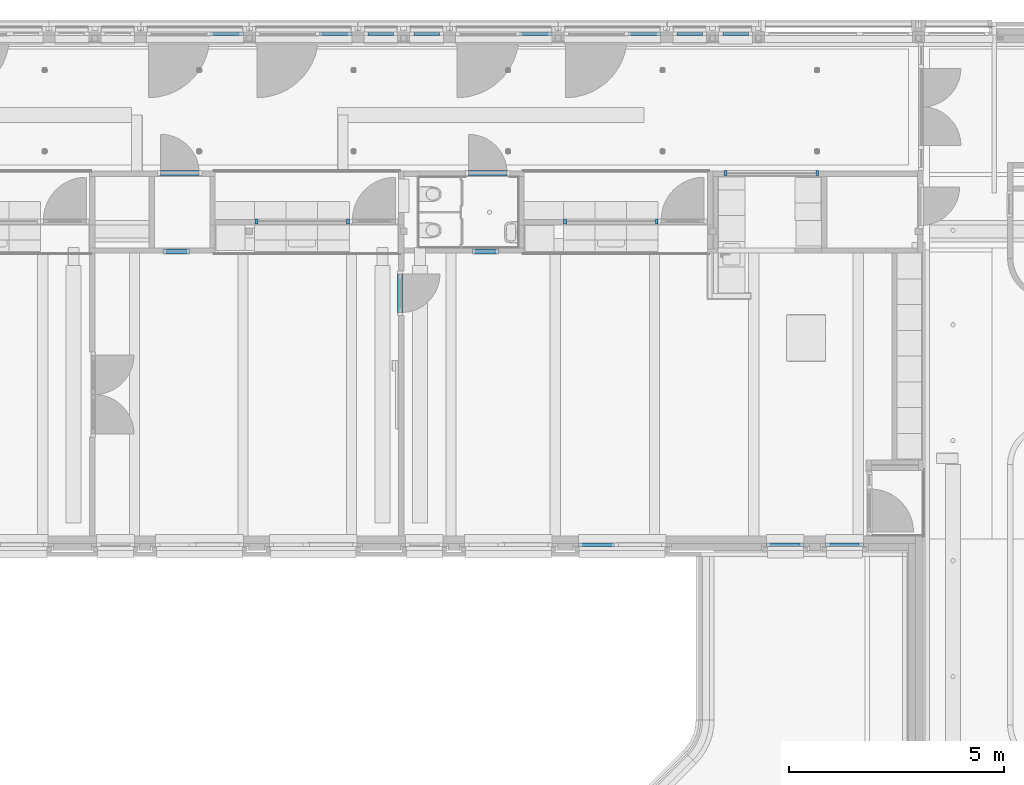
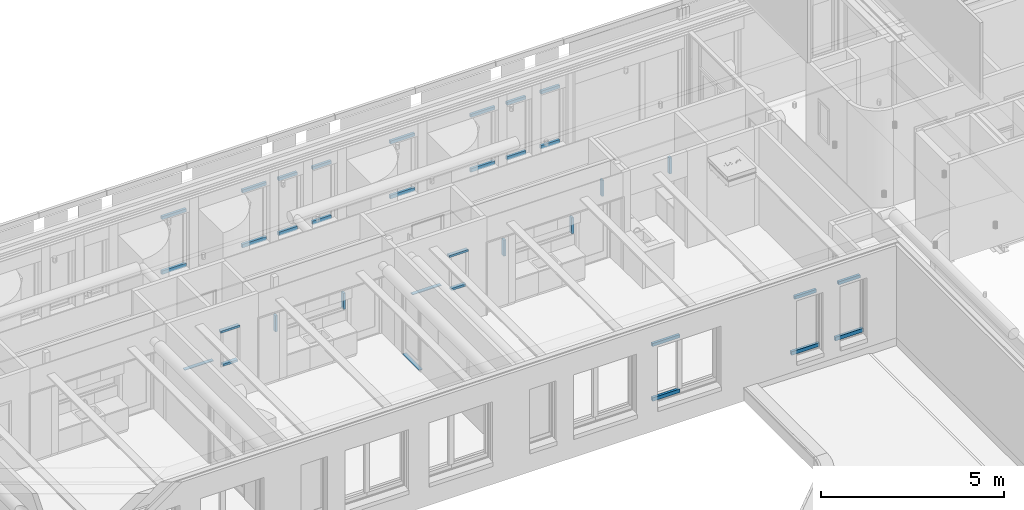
# One storey, part 29 of 128: 35 members, 19 elements without a shape of their own.
"""IFC2X3 building model written with IfcOpenShell, lengths in millimetres."""

from ifc_helpers import new_model, entity, si_unit, converted_unit, derived_unit, direction, frame, frame_2d, origin, origin_2d_with_axis, place, context, subcontext, project, spatial, rectangle, extrude, source, transform, mapped, material, type_object, type_shapes, element, aggregate, save


model = new_model("IFC2X3")

# Units and contexts
model_context = context("Model", 3, precision=0.01, world=origin(), true_north=direction((6.123031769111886e-17, 1.0)))
body_context = subcontext(model_context, "Body", "Model", "MODEL_VIEW")
ifc_project = project(units=[si_unit("LENGTHUNIT", "METRE", prefix="MILLI"), si_unit("AREAUNIT", "SQUARE_METRE"), si_unit("VOLUMEUNIT", "CUBIC_METRE"), converted_unit("PLANEANGLEUNIT", "DEGREE", entity("IfcRatioMeasure", 0.017453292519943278), si_unit("PLANEANGLEUNIT", "RADIAN"), dimensions=[0, 0, 0, 0, 0, 0, 0]), si_unit("MASSUNIT", "GRAM", prefix="KILO"), derived_unit("MASSDENSITYUNIT", [(si_unit("MASSUNIT", "GRAM", prefix="KILO"), 1), (si_unit("LENGTHUNIT", "METRE"), -3)]), derived_unit("IONCONCENTRATIONUNIT", [(si_unit("MASSUNIT", "GRAM", prefix="KILO"), 1), (si_unit("LENGTHUNIT", "METRE"), -3)]), derived_unit("MOMENTOFINERTIAUNIT", [(si_unit("LENGTHUNIT", "METRE"), 4)]), si_unit("TIMEUNIT", "SECOND"), si_unit("FREQUENCYUNIT", "HERTZ"), si_unit("THERMODYNAMICTEMPERATUREUNIT", "DEGREE_CELSIUS"), derived_unit("THERMALTRANSMITTANCEUNIT", [(si_unit("MASSUNIT", "GRAM", prefix="KILO"), 1), (si_unit("THERMODYNAMICTEMPERATUREUNIT", "KELVIN"), -1), (si_unit("TIMEUNIT", "SECOND"), -3)]), derived_unit("THERMALCONDUCTANCEUNIT", [(si_unit("MASSUNIT", "GRAM", prefix="KILO"), 1), (si_unit("THERMODYNAMICTEMPERATUREUNIT", "KELVIN"), -1), (si_unit("TIMEUNIT", "SECOND"), -3), (si_unit("LENGTHUNIT", "METRE"), 1)]), derived_unit("VOLUMETRICFLOWRATEUNIT", [(si_unit("LENGTHUNIT", "METRE"), 3), (si_unit("TIMEUNIT", "SECOND"), -1)]), derived_unit("MASSFLOWRATEUNIT", [(si_unit("MASSUNIT", "GRAM", prefix="KILO"), 1), (si_unit("TIMEUNIT", "SECOND"), -1)]), derived_unit("ROTATIONALFREQUENCYUNIT", [(si_unit("TIMEUNIT", "SECOND"), -1)]), si_unit("ELECTRICCURRENTUNIT", "AMPERE"), si_unit("ELECTRICVOLTAGEUNIT", "VOLT"), si_unit("POWERUNIT", "WATT"), si_unit("FORCEUNIT", "NEWTON", prefix="KILO"), si_unit("ILLUMINANCEUNIT", "LUX"), si_unit("LUMINOUSFLUXUNIT", "LUMEN"), si_unit("LUMINOUSINTENSITYUNIT", "CANDELA"), derived_unit("USERDEFINED", [(si_unit("MASSUNIT", "GRAM", prefix="KILO"), -1), (si_unit("LENGTHUNIT", "METRE"), -2), (si_unit("TIMEUNIT", "SECOND"), 3), (si_unit("LUMINOUSFLUXUNIT", "LUMEN"), 1)]), derived_unit("USERDEFINED", [(si_unit("MASSUNIT", "GRAM", prefix="KILO"), 1), (si_unit("TIMEUNIT", "SECOND"), -3), (si_unit("LENGTHUNIT", "METRE"), 3), (si_unit("ELECTRICCURRENTUNIT", "AMPERE"), -2)]), derived_unit("SOUNDPOWERUNIT", [(si_unit("MASSUNIT", "GRAM", prefix="KILO"), 1), (si_unit("TIMEUNIT", "SECOND"), -3), (si_unit("LENGTHUNIT", "METRE"), 2)]), derived_unit("SOUNDPRESSUREUNIT", [(si_unit("MASSUNIT", "GRAM", prefix="KILO"), 1), (si_unit("LENGTHUNIT", "METRE"), -1), (si_unit("TIMEUNIT", "SECOND"), -2)]), derived_unit("LINEARVELOCITYUNIT", [(si_unit("LENGTHUNIT", "METRE"), 1), (si_unit("TIMEUNIT", "SECOND"), -1)]), si_unit("PRESSUREUNIT", "PASCAL"), derived_unit("USERDEFINED", [(si_unit("MASSUNIT", "GRAM", prefix="KILO"), 1), (si_unit("LENGTHUNIT", "METRE"), -2), (si_unit("TIMEUNIT", "SECOND"), -2)]), derived_unit("LINEARFORCEUNIT", [(si_unit("MASSUNIT", "GRAM", prefix="KILO"), 1), (si_unit("TIMEUNIT", "SECOND"), -2)]), derived_unit("PLANARFORCEUNIT", [(si_unit("MASSUNIT", "GRAM", prefix="KILO"), 1), (si_unit("LENGTHUNIT", "METRE"), -1), (si_unit("TIMEUNIT", "SECOND"), -2)]), derived_unit("SPECIFICHEATCAPACITYUNIT", [(si_unit("THERMODYNAMICTEMPERATUREUNIT", "KELVIN"), -1), (si_unit("LENGTHUNIT", "METRE"), 2), (si_unit("TIMEUNIT", "SECOND"), -2)]), derived_unit("HEATINGVALUEUNIT", [(si_unit("LENGTHUNIT", "METRE"), 2), (si_unit("TIMEUNIT", "SECOND"), -2)]), derived_unit("VAPORPERMEABILITYUNIT", [(si_unit("LENGTHUNIT", "METRE"), -1), (si_unit("TIMEUNIT", "SECOND"), 1)]), derived_unit("DYNAMICVISCOSITYUNIT", [(si_unit("MASSUNIT", "GRAM", prefix="KILO"), 1), (si_unit("TIMEUNIT", "SECOND"), -1), (si_unit("LENGTHUNIT", "METRE"), -1)]), derived_unit("THERMALEXPANSIONCOEFFICIENTUNIT", [(si_unit("THERMODYNAMICTEMPERATUREUNIT", "KELVIN"), -1)]), derived_unit("MODULUSOFELASTICITYUNIT", [(si_unit("MASSUNIT", "GRAM", prefix="KILO"), 1), (si_unit("LENGTHUNIT", "METRE"), -1), (si_unit("TIMEUNIT", "SECOND"), -2)]), derived_unit("ISOTHERMALMOISTURECAPACITYUNIT", [(si_unit("LENGTHUNIT", "METRE"), 3), (si_unit("MASSUNIT", "GRAM", prefix="KILO"), -1)]), derived_unit("MOISTUREDIFFUSIVITYUNIT", [(si_unit("TIMEUNIT", "SECOND"), -1), (si_unit("LENGTHUNIT", "METRE"), 2)])], contexts=[model_context])

# Site, building, storey
site_placement = place(None, frame((0.0, 300.0, 0.0)))
site = spatial("IfcSite", under=ifc_project, at=site_placement, Name="<Kadastrale nummers>", CompositionType="ELEMENT")
building_placement = place(site_placement, origin())
building = spatial("IfcBuilding", under=site, at=building_placement, CompositionType="ELEMENT")
storey_placement = place(building_placement, frame((0.0, 0.0, 3560.0000331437)))
storey = spatial("IfcBuildingStorey", under=building, at=storey_placement, Name="01 eerste verdieping", CompositionType="ELEMENT", Elevation=3560.0000331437)

# Curtain wall, member
curtain_wall_type_1 = type_object("IfcCurtainWallType", Name="Curtain Wall:Merk H01", PredefinedType="NOTDEFINED")
curtain_wall_1_placement = place(storey_placement, frame((0.0, 0.0, -3560.0000331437)))
curtain_wall_1 = element("IfcCurtainWall", 1, at=curtain_wall_1_placement, inside=storey, type_object=curtain_wall_type_1, Name="Curtain Wall:Merk H01", ObjectType="Curtain Wall:Merk H01")
ifc_material_1 = material(Name="ISR_Kunststof_grijs")
member_type_1 = type_object("IfcMemberType", Name="Rectangular Mullion:31_CWM_020x114", PredefinedType="MULLION", material=ifc_material_1)
shared_shape_1 = source(origin(), body_context, "Body", "SweptSolid", [
    extrude(rectangle(XDim=113.99999999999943, YDim=20.0, at=origin_2d_with_axis()), frame((-10.0, 57.0, -900.0), z_axis=(0.0, 0.0, 1.0), x_axis=(0.0, -1.0, 0.0)), (0.0, 0.0, 1.0), 899.999999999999),
])
type_shapes(member_type_1, [shared_shape_1])
member_1_placement = place(curtain_wall_1_placement, frame((27008.001376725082, 46606.0, 3650.00003501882), z_axis=(1.0, 0.0, 0.0), x_axis=(0.0, 0.0, -1.0)))
member_1 = element("IfcMember", 2, at=member_1_placement, type_object=member_type_1, material=ifc_material_1, Name="Rectangular Mullion:31_CWM_020x114", ObjectType="Rectangular Mullion:31_CWM_020x114", context=body_context, shape_type="MappedRepresentation", body=[
    mapped(shared_shape_1, transform((0.0, 0.0, 0.0), scale=1.0)),
])
aggregate(curtain_wall_1, [member_1])

curtain_wall_2_placement = place(storey_placement, frame((0.0, 0.0, -3560.0000331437)))
curtain_wall_2 = element("IfcCurtainWall", 3, at=curtain_wall_2_placement, inside=storey, type_object=curtain_wall_type_1, Name="Curtain Wall:Merk H01", ObjectType="Curtain Wall:Merk H01")
member_2_placement = place(curtain_wall_2_placement, frame((19833.001376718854, 46606.0, 3650.00003501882), z_axis=(1.0, 0.0, 0.0), x_axis=(0.0, 0.0, -1.0)))
member_2 = element("IfcMember", 4, at=member_2_placement, type_object=member_type_1, material=ifc_material_1, Name="Rectangular Mullion:31_CWM_020x114", ObjectType="Rectangular Mullion:31_CWM_020x114", context=body_context, shape_type="MappedRepresentation", body=[
    mapped(shared_shape_1, transform((0.0, 0.0, 0.0), scale=1.0)),
])
aggregate(curtain_wall_2, [member_2])

curtain_wall_type_2 = type_object("IfcCurtainWallType", Name="Curtain Wall:Merk H16", PredefinedType="NOTDEFINED")
curtain_wall_3_placement = place(storey_placement, frame((0.0, 0.0, -3560.0000331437)))
curtain_wall_3 = element("IfcCurtainWall", 5, at=curtain_wall_3_placement, inside=storey, type_object=curtain_wall_type_2, Name="Curtain Wall:Merk H16", ObjectType="Curtain Wall:Merk H16")
member_3_placement = place(curtain_wall_3_placement, frame((24460.0, 43408.0, 3650.000035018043), z_axis=(0.0, -1.0, 0.0), x_axis=(0.0, 0.0, -1.0)))
member_3 = element("IfcMember", 6, at=member_3_placement, type_object=member_type_1, material=ifc_material_1, Name="Rectangular Mullion:31_CWM_020x114", ObjectType="Rectangular Mullion:31_CWM_020x114", context=body_context, shape_type="MappedRepresentation", body=[
    mapped(shared_shape_1, transform((0.0, 0.0, 0.0), scale=1.0)),
])
aggregate(curtain_wall_3, [member_3])

curtain_wall_type_3 = type_object("IfcCurtainWallType", Name="Curtain Wall:Merk H13", PredefinedType="NOTDEFINED")
curtain_wall_4_placement = place(storey_placement, frame((0.0, 0.0, -3560.0000331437)))
curtain_wall_4 = element("IfcCurtainWall", 7, at=curtain_wall_4_placement, inside=storey, type_object=curtain_wall_type_3, Name="Curtain Wall:Merk H13", ObjectType="Curtain Wall:Merk H13")
ifc_material_2 = material(Name="ISR_HPL")
member_type_2 = type_object("IfcMemberType", Name="Rectangular Mullion:31_CWM_067x114", PredefinedType="MULLION", material=ifc_material_2)
shared_shape_2 = source(origin(), body_context, "Body", "SweptSolid", [
    extrude(rectangle(XDim=113.99999999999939, YDim=67.0, at=origin_2d_with_axis()), frame((-33.5, -57.0, -533.0), z_axis=(0.0, 0.0, 1.0), x_axis=(0.0, -1.0, 0.0)), (0.0, 0.0, 1.0), 533.0000000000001),
])
type_shapes(member_type_2, [shared_shape_2])
member_4_placement = place(curtain_wall_4_placement, frame((30531.0, 45476.0, 4850.0000331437), z_axis=(0.0, 0.0, -1.0), x_axis=(1.0, 0.0, 0.0)))
member_4 = element("IfcMember", 8, at=member_4_placement, type_object=member_type_2, material=ifc_material_2, Name="Rectangular Mullion:31_CWM_067x114", ObjectType="Rectangular Mullion:31_CWM_067x114", context=body_context, shape_type="MappedRepresentation", body=[
    mapped(shared_shape_2, transform((0.0, 0.0, 0.0), scale=1.0)),
])

curtain_wall_5_placement = place(storey_placement, frame((0.0, 0.0, -3560.0000331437)))
curtain_wall_5 = element("IfcCurtainWall", 9, at=curtain_wall_5_placement, inside=storey, type_object=curtain_wall_type_3, Name="Curtain Wall:Merk H13", ObjectType="Curtain Wall:Merk H13")
member_5_placement = place(curtain_wall_5_placement, frame((23336.0, 45476.0, 4850.0000331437), z_axis=(0.0, 0.0, -1.0), x_axis=(1.0, 0.0, 0.0)))
member_5 = element("IfcMember", 10, at=member_5_placement, type_object=member_type_2, material=ifc_material_2, Name="Rectangular Mullion:31_CWM_067x114", ObjectType="Rectangular Mullion:31_CWM_067x114", context=body_context, shape_type="MappedRepresentation", body=[
    mapped(shared_shape_2, transform((0.0, 0.0, 0.0), scale=1.0)),
])

curtain_wall_6_placement = place(storey_placement, frame((0.0, 0.0, -3560.0000331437)))
curtain_wall_6 = element("IfcCurtainWall", 11, at=curtain_wall_6_placement, inside=storey, type_object=curtain_wall_type_3, Name="Curtain Wall:Merk H13", ObjectType="Curtain Wall:Merk H13")
member_6_placement = place(curtain_wall_6_placement, frame((34271.00007171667, 46601.0, 4850.0000331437), z_axis=(0.0, 0.0, -1.0), x_axis=(1.0, 0.0, 0.0)))
member_6 = element("IfcMember", 12, at=member_6_placement, type_object=member_type_2, material=ifc_material_2, Name="Rectangular Mullion:31_CWM_067x114", ObjectType="Rectangular Mullion:31_CWM_067x114", context=body_context, shape_type="MappedRepresentation", body=[
    mapped(shared_shape_2, transform((0.0, 0.0, 0.0), scale=1.0)),
])

# Member
member_type_3 = type_object("IfcMemberType", Name="Rectangular Mullion:31_CWM_067x114", PredefinedType="MULLION", material=ifc_material_2)
shared_shape_3 = source(origin(), body_context, "Body", "SweptSolid", [
    extrude(rectangle(XDim=113.9999999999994, YDim=67.0, at=frame_2d((1.0658141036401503e-14, 0.0), x_axis=(1.0, 0.0))), frame((-33.5, -57.0, -533.0), z_axis=(0.0, 0.0, 1.0), x_axis=(0.0, -1.0, 0.0)), (0.0, 0.0, 1.0), 533.0000000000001),
])
type_shapes(member_type_3, [shared_shape_3])
member_7_placement = place(curtain_wall_4_placement, frame((28326.0, 45476.0, 5383.0000331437), z_axis=(0.0, 0.0, 1.0), x_axis=(-1.0, 0.0, 0.0)))
member_7 = element("IfcMember", 13, at=member_7_placement, type_object=member_type_3, material=ifc_material_2, Name="Rectangular Mullion:31_CWM_067x114", ObjectType="Rectangular Mullion:31_CWM_067x114", context=body_context, shape_type="MappedRepresentation", body=[
    mapped(shared_shape_3, transform((0.0, 0.0, 0.0), scale=1.0)),
])

aggregate(curtain_wall_4, [member_4, member_7])

member_8_placement = place(curtain_wall_5_placement, frame((21131.0, 45476.0, 5383.0000331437), z_axis=(0.0, 0.0, 1.0), x_axis=(-1.0, 0.0, 0.0)))
member_8 = element("IfcMember", 14, at=member_8_placement, type_object=member_type_3, material=ifc_material_2, Name="Rectangular Mullion:31_CWM_067x114", ObjectType="Rectangular Mullion:31_CWM_067x114", context=body_context, shape_type="MappedRepresentation", body=[
    mapped(shared_shape_3, transform((0.0, 0.0, 0.0), scale=1.0)),
])

aggregate(curtain_wall_5, [member_5, member_8])

member_9_placement = place(curtain_wall_6_placement, frame((32066.00007171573, 46601.0, 5383.0000331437), z_axis=(0.0, 0.0, 1.0), x_axis=(-1.0, 0.0, 0.0)))
member_9 = element("IfcMember", 15, at=member_9_placement, type_object=member_type_3, material=ifc_material_2, Name="Rectangular Mullion:31_CWM_067x114", ObjectType="Rectangular Mullion:31_CWM_067x114", context=body_context, shape_type="MappedRepresentation", body=[
    mapped(shared_shape_3, transform((0.0, 0.0, 0.0), scale=1.0)),
])

aggregate(curtain_wall_6, [member_6, member_9])

# Curtain wall, member
curtain_wall_type_4 = type_object("IfcCurtainWallType", Name="Curtain Wall:Merk H05", PredefinedType="NOTDEFINED")
curtain_wall_7_placement = place(storey_placement, frame((0.0, 0.0, -3560.0000331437)))
curtain_wall_7 = element("IfcCurtainWall", 16, at=curtain_wall_7_placement, inside=storey, type_object=curtain_wall_type_4, Name="Curtain Wall:Merk H05", ObjectType="Curtain Wall:Merk H05")
member_type_4 = type_object("IfcMemberType", Name="Rectangular Mullion:31_CWM_067x114", PredefinedType="MULLION", material=ifc_material_2)
shared_shape_4 = source(origin(), body_context, "Body", "SweptSolid", [
    extrude(rectangle(XDim=113.9999999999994, YDim=67.0, at=frame_2d((1.0658141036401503e-14, 0.0), x_axis=(1.0, 0.0))), frame((-33.5, -57.0, -600.0), z_axis=(0.0, 0.0, 1.0), x_axis=(0.0, -1.0, 0.0)), (0.0, 0.0, 1.0), 600.0000000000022),
])
type_shapes(member_type_4, [shared_shape_4])
member_10_placement = place(curtain_wall_7_placement, frame((26205.0, 44889.0, 6040.0000331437), z_axis=(-1.0, 0.0, 0.0), x_axis=(0.0, 0.0, 1.0)))
member_10 = element("IfcMember", 17, at=member_10_placement, type_object=member_type_4, material=ifc_material_2, Name="Rectangular Mullion:31_CWM_067x114", ObjectType="Rectangular Mullion:31_CWM_067x114", context=body_context, shape_type="MappedRepresentation", body=[
    mapped(shared_shape_4, transform((0.0, 0.0, 0.0), scale=1.0)),
])

curtain_wall_8_placement = place(storey_placement, frame((0.0, 0.0, -3560.0000331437)))
curtain_wall_8 = element("IfcCurtainWall", 18, at=curtain_wall_8_placement, inside=storey, type_object=curtain_wall_type_4, Name="Curtain Wall:Merk H05", ObjectType="Curtain Wall:Merk H05")
member_11_placement = place(curtain_wall_8_placement, frame((19005.0, 44889.0, 6040.0000331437), z_axis=(-1.0, 0.0, 0.0), x_axis=(0.0, 0.0, 1.0)))
member_11 = element("IfcMember", 19, at=member_11_placement, type_object=member_type_4, material=ifc_material_2, Name="Rectangular Mullion:31_CWM_067x114", ObjectType="Rectangular Mullion:31_CWM_067x114", context=body_context, shape_type="MappedRepresentation", body=[
    mapped(shared_shape_4, transform((0.0, 0.0, 0.0), scale=1.0)),
])

# Member
member_type_5 = type_object("IfcMemberType", Name="Rectangular Mullion:31_CWM_067x114", PredefinedType="MULLION", material=ifc_material_2)
shared_shape_5 = source(origin(), body_context, "Body", "SweptSolid", [
    extrude(rectangle(XDim=113.9999999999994, YDim=67.0, at=frame_2d((1.0658141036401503e-14, 0.0), x_axis=(1.0, 0.0))), frame((-33.5, -57.0, -466.0), z_axis=(0.0, 0.0, 1.0), x_axis=(0.0, -1.0, 0.0)), (0.0, 0.0, 1.0), 466.0000000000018),
])
type_shapes(member_type_5, [shared_shape_5])
member_12_placement = place(curtain_wall_7_placement, frame((26738.0, 44889.0, 4850.0000331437), z_axis=(1.0, 0.0, 0.0), x_axis=(0.0, 0.0, -1.0)))
member_12 = element("IfcMember", 20, at=member_12_placement, type_object=member_type_5, material=ifc_material_2, Name="Rectangular Mullion:31_CWM_067x114", ObjectType="Rectangular Mullion:31_CWM_067x114", context=body_context, shape_type="MappedRepresentation", body=[
    mapped(shared_shape_5, transform((0.0, 0.0, 0.0), scale=1.0)),
])

aggregate(curtain_wall_7, [member_10, member_12])

member_13_placement = place(curtain_wall_8_placement, frame((19538.0, 44889.0, 4850.0000331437), z_axis=(1.0, 0.0, 0.0), x_axis=(0.0, 0.0, -1.0)))
member_13 = element("IfcMember", 21, at=member_13_placement, type_object=member_type_5, material=ifc_material_2, Name="Rectangular Mullion:31_CWM_067x114", ObjectType="Rectangular Mullion:31_CWM_067x114", context=body_context, shape_type="MappedRepresentation", body=[
    mapped(shared_shape_5, transform((0.0, 0.0, 0.0), scale=1.0)),
])

aggregate(curtain_wall_8, [member_11, member_13])

# Curtain wall, member
curtain_wall_type_5 = type_object("IfcCurtainWallType", Name="Curtain Wall:K_29", PredefinedType="NOTDEFINED")
curtain_wall_9_placement = place(storey_placement, frame((0.0, 0.0, -3560.0000331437)))
curtain_wall_9 = element("IfcCurtainWall", 22, at=curtain_wall_9_placement, inside=storey, type_object=curtain_wall_type_5, Name="Curtain Wall:K_29", ObjectType="Curtain Wall:K_29")
ifc_material_3 = material(Name="ISR_Kunststof_RAL7006")
member_type_6 = type_object("IfcMemberType", Name="Rectangular Mullion:100x83 Gealan Kubus", PredefinedType="MULLION", material=ifc_material_3)
shared_shape_6 = source(origin(), body_context, "Body", "SweptSolid", [
    extrude(rectangle(XDim=83.0, YDim=100.0, at=origin_2d_with_axis()), frame((-50.0, 41.5, -590.0), z_axis=(0.0, 0.0, 1.0), x_axis=(0.0, -1.0, 0.0)), (0.0, 0.0, 1.0), 590.0000000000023),
])
type_shapes(member_type_6, [shared_shape_6])
member_14_placement = place(curtain_wall_9_placement, frame((32040.0, 49868.0, 6390.0), z_axis=(-1.0, 0.0, 0.0), x_axis=(0.0, 0.0, 1.0)))
member_14 = element("IfcMember", 23, at=member_14_placement, type_object=member_type_6, material=ifc_material_3, Name="Rectangular Mullion:100x83 Gealan Kubus", ObjectType="Rectangular Mullion:100x83 Gealan Kubus", context=body_context, shape_type="MappedRepresentation", body=[
    mapped(shared_shape_6, transform((0.0, 0.0, 0.0), scale=1.0)),
])

curtain_wall_10_placement = place(storey_placement, frame((0.0, 0.0, -3560.0000331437)))
curtain_wall_10 = element("IfcCurtainWall", 24, at=curtain_wall_10_placement, inside=storey, type_object=curtain_wall_type_5, Name="Curtain Wall:K_29", ObjectType="Curtain Wall:K_29")
member_15_placement = place(curtain_wall_10_placement, frame((30970.0, 49868.0, 6390.0), z_axis=(-1.0, 0.0, 0.0), x_axis=(0.0, 0.0, 1.0)))
member_15 = element("IfcMember", 25, at=member_15_placement, type_object=member_type_6, material=ifc_material_3, Name="Rectangular Mullion:100x83 Gealan Kubus", ObjectType="Rectangular Mullion:100x83 Gealan Kubus", context=body_context, shape_type="MappedRepresentation", body=[
    mapped(shared_shape_6, transform((0.0, 0.0, 0.0), scale=1.0)),
])

curtain_wall_11_placement = place(storey_placement, frame((0.0, 0.0, -3560.0000331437)))
curtain_wall_11 = element("IfcCurtainWall", 26, at=curtain_wall_11_placement, inside=storey, type_object=curtain_wall_type_5, Name="Curtain Wall:K_29", ObjectType="Curtain Wall:K_29")
member_16_placement = place(curtain_wall_11_placement, frame((24840.0, 49868.0, 6390.0), z_axis=(-1.0, 0.0, 0.0), x_axis=(0.0, 0.0, 1.0)))
member_16 = element("IfcMember", 27, at=member_16_placement, type_object=member_type_6, material=ifc_material_3, Name="Rectangular Mullion:100x83 Gealan Kubus", ObjectType="Rectangular Mullion:100x83 Gealan Kubus", context=body_context, shape_type="MappedRepresentation", body=[
    mapped(shared_shape_6, transform((0.0, 0.0, 0.0), scale=1.0)),
])

curtain_wall_12_placement = place(storey_placement, frame((0.0, 0.0, -3560.0000331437)))
curtain_wall_12 = element("IfcCurtainWall", 28, at=curtain_wall_12_placement, inside=storey, type_object=curtain_wall_type_5, Name="Curtain Wall:K_29", ObjectType="Curtain Wall:K_29")
member_17_placement = place(curtain_wall_12_placement, frame((23770.0, 49868.0, 6390.0), z_axis=(-1.0, 0.0, 0.0), x_axis=(0.0, 0.0, 1.0)))
member_17 = element("IfcMember", 29, at=member_17_placement, type_object=member_type_6, material=ifc_material_3, Name="Rectangular Mullion:100x83 Gealan Kubus", ObjectType="Rectangular Mullion:100x83 Gealan Kubus", context=body_context, shape_type="MappedRepresentation", body=[
    mapped(shared_shape_6, transform((0.0, 0.0, 0.0), scale=1.0)),
])

# Member
member_type_7 = type_object("IfcMemberType", Name="Rectangular Mullion:120x83 Gealan Kubus", PredefinedType="MULLION", material=ifc_material_3)
shared_shape_7 = source(origin(), body_context, "Body", "SweptSolid", [
    extrude(rectangle(XDim=83.00000000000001, YDim=120.0, at=origin_2d_with_axis()), frame((-60.0, 41.50000000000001, -590.0), z_axis=(0.0, 0.0, 1.0), x_axis=(0.0, -1.0, 0.0)), (0.0, 0.0, 1.0), 590.0000000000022),
])
type_shapes(member_type_7, [shared_shape_7])
member_18_placement = place(curtain_wall_9_placement, frame((32630.0, 49868.0, 4460.000035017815), z_axis=(1.0, 0.0, 0.0), x_axis=(0.0, 0.0, -1.0)))
member_18 = element("IfcMember", 30, at=member_18_placement, type_object=member_type_7, material=ifc_material_3, Name="Rectangular Mullion:120x83 Gealan Kubus", ObjectType="Rectangular Mullion:120x83 Gealan Kubus", context=body_context, shape_type="MappedRepresentation", body=[
    mapped(shared_shape_7, transform((0.0, 0.0, 0.0), scale=1.0)),
])

aggregate(curtain_wall_9, [member_14, member_18])

member_19_placement = place(curtain_wall_10_placement, frame((31560.0, 49868.0, 4460.000035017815), z_axis=(1.0, 0.0, 0.0), x_axis=(0.0, 0.0, -1.0)))
member_19 = element("IfcMember", 31, at=member_19_placement, type_object=member_type_7, material=ifc_material_3, Name="Rectangular Mullion:120x83 Gealan Kubus", ObjectType="Rectangular Mullion:120x83 Gealan Kubus", context=body_context, shape_type="MappedRepresentation", body=[
    mapped(shared_shape_7, transform((0.0, 0.0, 0.0), scale=1.0)),
])

aggregate(curtain_wall_10, [member_15, member_19])

member_20_placement = place(curtain_wall_11_placement, frame((25430.0, 49868.0, 4460.000035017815), z_axis=(1.0, 0.0, 0.0), x_axis=(0.0, 0.0, -1.0)))
member_20 = element("IfcMember", 32, at=member_20_placement, type_object=member_type_7, material=ifc_material_3, Name="Rectangular Mullion:120x83 Gealan Kubus", ObjectType="Rectangular Mullion:120x83 Gealan Kubus", context=body_context, shape_type="MappedRepresentation", body=[
    mapped(shared_shape_7, transform((0.0, 0.0, 0.0), scale=1.0)),
])

aggregate(curtain_wall_11, [member_16, member_20])

member_21_placement = place(curtain_wall_12_placement, frame((24360.0, 49868.0, 4460.000035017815), z_axis=(1.0, 0.0, 0.0), x_axis=(0.0, 0.0, -1.0)))
member_21 = element("IfcMember", 33, at=member_21_placement, type_object=member_type_7, material=ifc_material_3, Name="Rectangular Mullion:120x83 Gealan Kubus", ObjectType="Rectangular Mullion:120x83 Gealan Kubus", context=body_context, shape_type="MappedRepresentation", body=[
    mapped(shared_shape_7, transform((0.0, 0.0, 0.0), scale=1.0)),
])

aggregate(curtain_wall_12, [member_17, member_21])

# Curtain wall, member
curtain_wall_type_6 = type_object("IfcCurtainWallType", Name="Curtain Wall:K_22", PredefinedType="NOTDEFINED")
curtain_wall_13_placement = place(storey_placement, frame((0.0, 0.0, -3560.0000331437)))
curtain_wall_13 = element("IfcCurtainWall", 34, at=curtain_wall_13_placement, inside=storey, type_object=curtain_wall_type_6, Name="Curtain Wall:K_22", ObjectType="Curtain Wall:K_22")
member_type_8 = type_object("IfcMemberType", Name="Rectangular Mullion:120x83 Gealan Kubus", PredefinedType="MULLION", material=ifc_material_3)
shared_shape_8 = source(origin(), body_context, "Body", "SweptSolid", [
    extrude(rectangle(XDim=83.00000000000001, YDim=120.0, at=origin_2d_with_axis()), frame((-60.0, 41.50000000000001, -767.0), z_axis=(0.0, 0.0, 1.0), x_axis=(0.0, -1.0, 0.0)), (0.0, 0.0, 1.0), 766.9999999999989),
])
type_shapes(member_type_8, [shared_shape_8])
member_22_placement = place(curtain_wall_13_placement, frame((30590.0, 49868.0, 4460.000035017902), z_axis=(1.0, 0.0, 0.0), x_axis=(0.0, 0.0, -1.0)))
member_22 = element("IfcMember", 35, at=member_22_placement, type_object=member_type_8, material=ifc_material_3, Name="Rectangular Mullion:120x83 Gealan Kubus", ObjectType="Rectangular Mullion:120x83 Gealan Kubus", context=body_context, shape_type="MappedRepresentation", body=[
    mapped(shared_shape_8, transform((0.0, 0.0, 0.0), scale=1.0)),
])

curtain_wall_14_placement = place(storey_placement, frame((0.0, 0.0, -3560.0000331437)))
curtain_wall_14 = element("IfcCurtainWall", 36, at=curtain_wall_14_placement, inside=storey, type_object=curtain_wall_type_6, Name="Curtain Wall:K_22", ObjectType="Curtain Wall:K_22")
member_23_placement = place(curtain_wall_14_placement, frame((28060.0, 49868.0, 4460.000035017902), z_axis=(1.0, 0.0, 0.0), x_axis=(0.0, 0.0, -1.0)))
member_23 = element("IfcMember", 37, at=member_23_placement, type_object=member_type_8, material=ifc_material_3, Name="Rectangular Mullion:120x83 Gealan Kubus", ObjectType="Rectangular Mullion:120x83 Gealan Kubus", context=body_context, shape_type="MappedRepresentation", body=[
    mapped(shared_shape_8, transform((0.0, 0.0, 0.0), scale=1.0)),
])

curtain_wall_15_placement = place(storey_placement, frame((0.0, 0.0, -3560.0000331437)))
curtain_wall_15 = element("IfcCurtainWall", 38, at=curtain_wall_15_placement, inside=storey, type_object=curtain_wall_type_6, Name="Curtain Wall:K_22", ObjectType="Curtain Wall:K_22")
member_24_placement = place(curtain_wall_15_placement, frame((23390.0, 49868.0, 4460.000035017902), z_axis=(1.0, 0.0, 0.0), x_axis=(0.0, 0.0, -1.0)))
member_24 = element("IfcMember", 39, at=member_24_placement, type_object=member_type_8, material=ifc_material_3, Name="Rectangular Mullion:120x83 Gealan Kubus", ObjectType="Rectangular Mullion:120x83 Gealan Kubus", context=body_context, shape_type="MappedRepresentation", body=[
    mapped(shared_shape_8, transform((0.0, 0.0, 0.0), scale=1.0)),
])

curtain_wall_16_placement = place(storey_placement, frame((0.0, 0.0, -3560.0000331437)))
curtain_wall_16 = element("IfcCurtainWall", 40, at=curtain_wall_16_placement, inside=storey, type_object=curtain_wall_type_6, Name="Curtain Wall:K_22", ObjectType="Curtain Wall:K_22")
member_25_placement = place(curtain_wall_16_placement, frame((20860.0, 49868.0, 4460.000035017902), z_axis=(1.0, 0.0, 0.0), x_axis=(0.0, 0.0, -1.0)))
member_25 = element("IfcMember", 41, at=member_25_placement, type_object=member_type_8, material=ifc_material_3, Name="Rectangular Mullion:120x83 Gealan Kubus", ObjectType="Rectangular Mullion:120x83 Gealan Kubus", context=body_context, shape_type="MappedRepresentation", body=[
    mapped(shared_shape_8, transform((0.0, 0.0, 0.0), scale=1.0)),
])

# Member
member_type_9 = type_object("IfcMemberType", Name="Rectangular Mullion:100x83 Gealan Kubus", PredefinedType="MULLION", material=ifc_material_3)
shared_shape_9 = source(origin(), body_context, "Body", "SweptSolid", [
    extrude(rectangle(XDim=83.0, YDim=100.0, at=origin_2d_with_axis()), frame((-50.0, 41.5, -767.0), z_axis=(0.0, 0.0, 1.0), x_axis=(0.0, -1.0, 0.0)), (0.0, 0.0, 1.0), 766.9999999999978),
])
type_shapes(member_type_9, [shared_shape_9])
member_26_placement = place(curtain_wall_13_placement, frame((29823.0, 49868.0, 6390.0), z_axis=(-1.0, 0.0, 0.0), x_axis=(0.0, 0.0, 1.0)))
member_26 = element("IfcMember", 42, at=member_26_placement, type_object=member_type_9, material=ifc_material_3, Name="Rectangular Mullion:100x83 Gealan Kubus", ObjectType="Rectangular Mullion:100x83 Gealan Kubus", context=body_context, shape_type="MappedRepresentation", body=[
    mapped(shared_shape_9, transform((0.0, 0.0, 0.0), scale=1.0)),
])

aggregate(curtain_wall_13, [member_22, member_26])

member_27_placement = place(curtain_wall_14_placement, frame((27293.0, 49868.0, 6390.0), z_axis=(-1.0, 0.0, 0.0), x_axis=(0.0, 0.0, 1.0)))
member_27 = element("IfcMember", 43, at=member_27_placement, type_object=member_type_9, material=ifc_material_3, Name="Rectangular Mullion:100x83 Gealan Kubus", ObjectType="Rectangular Mullion:100x83 Gealan Kubus", context=body_context, shape_type="MappedRepresentation", body=[
    mapped(shared_shape_9, transform((0.0, 0.0, 0.0), scale=1.0)),
])

aggregate(curtain_wall_14, [member_23, member_27])

member_28_placement = place(curtain_wall_15_placement, frame((22623.0, 49868.0, 6390.0), z_axis=(-1.0, 0.0, 0.0), x_axis=(0.0, 0.0, 1.0)))
member_28 = element("IfcMember", 44, at=member_28_placement, type_object=member_type_9, material=ifc_material_3, Name="Rectangular Mullion:100x83 Gealan Kubus", ObjectType="Rectangular Mullion:100x83 Gealan Kubus", context=body_context, shape_type="MappedRepresentation", body=[
    mapped(shared_shape_9, transform((0.0, 0.0, 0.0), scale=1.0)),
])

aggregate(curtain_wall_15, [member_24, member_28])

member_29_placement = place(curtain_wall_16_placement, frame((20093.0, 49868.0, 6390.0), z_axis=(-1.0, 0.0, 0.0), x_axis=(0.0, 0.0, 1.0)))
member_29 = element("IfcMember", 45, at=member_29_placement, type_object=member_type_9, material=ifc_material_3, Name="Rectangular Mullion:100x83 Gealan Kubus", ObjectType="Rectangular Mullion:100x83 Gealan Kubus", context=body_context, shape_type="MappedRepresentation", body=[
    mapped(shared_shape_9, transform((0.0, 0.0, 0.0), scale=1.0)),
])

aggregate(curtain_wall_16, [member_25, member_29])

# Curtain wall, members
curtain_wall_type_7 = type_object("IfcCurtainWallType", Name="Curtain Wall:K_24", PredefinedType="NOTDEFINED")
curtain_wall_17_placement = place(storey_placement, frame((0.0, 0.0, -3560.0000331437)))
curtain_wall_17 = element("IfcCurtainWall", 46, at=curtain_wall_17_placement, inside=storey, type_object=curtain_wall_type_7, Name="Curtain Wall:K_24", ObjectType="Curtain Wall:K_24")
member_type_10 = type_object("IfcMemberType", Name="Rectangular Mullion:120x83 Gealan Kubus", PredefinedType="MULLION", material=ifc_material_3)
shared_shape_10 = source(origin(), body_context, "Body", "SweptSolid", [
    extrude(rectangle(XDim=83.00000000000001, YDim=120.0, at=origin_2d_with_axis()), frame((-60.0, 41.50000000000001, -857.0), z_axis=(0.0, 0.0, 1.0), x_axis=(0.0, -1.0, 0.0)), (0.0, 0.0, 1.0), 857.0),
])
type_shapes(member_type_10, [shared_shape_10])
member_30_placement = place(curtain_wall_17_placement, frame((28670.0, 38031.998623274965, 4460.000035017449), z_axis=(-1.0, 0.0, 0.0), x_axis=(0.0, 0.0, -1.0)))
member_30 = element("IfcMember", 47, at=member_30_placement, type_object=member_type_10, material=ifc_material_3, Name="Rectangular Mullion:120x83 Gealan Kubus", ObjectType="Rectangular Mullion:120x83 Gealan Kubus", context=body_context, shape_type="MappedRepresentation", body=[
    mapped(shared_shape_10, transform((0.0, 0.0, 0.0), scale=1.0)),
])
member_type_11 = type_object("IfcMemberType", Name="Rectangular Mullion:100x83 Gealan Kubus", PredefinedType="MULLION", material=ifc_material_3)
shared_shape_11 = source(origin(), body_context, "Body", "SweptSolid", [
    extrude(rectangle(XDim=83.0, YDim=100.0, at=origin_2d_with_axis()), frame((-50.0, 41.5, -857.0), z_axis=(0.0, 0.0, 1.0), x_axis=(0.0, -1.0, 0.0)), (0.0, 0.0, 1.0), 857.0000000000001),
])
type_shapes(member_type_11, [shared_shape_11])
member_31_placement = place(curtain_wall_17_placement, frame((29527.0, 38031.99862327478, 6390.000035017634), z_axis=(1.0, 0.0, 0.0), x_axis=(0.0, 0.0, 1.0)))
member_31 = element("IfcMember", 48, at=member_31_placement, type_object=member_type_11, material=ifc_material_3, Name="Rectangular Mullion:100x83 Gealan Kubus", ObjectType="Rectangular Mullion:100x83 Gealan Kubus", context=body_context, shape_type="MappedRepresentation", body=[
    mapped(shared_shape_11, transform((0.0, 0.0, 0.0), scale=1.0)),
])
aggregate(curtain_wall_17, [member_30, member_31])

# Curtain wall, member
curtain_wall_type_8 = type_object("IfcCurtainWallType", Name="Curtain Wall:K_28", PredefinedType="NOTDEFINED")
curtain_wall_18_placement = place(storey_placement, frame((0.0, 0.0, -3560.0000331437)))
curtain_wall_18 = element("IfcCurtainWall", 49, at=curtain_wall_18_placement, inside=storey, type_object=curtain_wall_type_8, Name="Curtain Wall:K_28", ObjectType="Curtain Wall:K_28")
member_type_12 = type_object("IfcMemberType", Name="Rectangular Mullion:100x83 Gealan Kubus", PredefinedType="MULLION", material=ifc_material_3)
shared_shape_12 = source(origin(), body_context, "Body", "SweptSolid", [
    extrude(rectangle(XDim=83.00000000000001, YDim=100.0, at=origin_2d_with_axis()), frame((-50.0, 41.50000000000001, -680.0), z_axis=(0.0, 0.0, 1.0), x_axis=(0.0, -1.0, 0.0)), (0.0, 0.0, 1.0), 679.9999999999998),
])
type_shapes(member_type_12, [shared_shape_12])
member_32_placement = place(curtain_wall_18_placement, frame((33834.0, 38032.0, 6390.00003501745), z_axis=(1.0, 0.0, 0.0), x_axis=(0.0, 0.0, 1.0)))
member_32 = element("IfcMember", 50, at=member_32_placement, type_object=member_type_12, material=ifc_material_3, Name="Rectangular Mullion:100x83 Gealan Kubus", ObjectType="Rectangular Mullion:100x83 Gealan Kubus", context=body_context, shape_type="MappedRepresentation", body=[
    mapped(shared_shape_12, transform((0.0, 0.0, 0.0), scale=1.0)),
])

curtain_wall_19_placement = place(storey_placement, frame((0.0, 0.0, -3560.0000331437)))
curtain_wall_19 = element("IfcCurtainWall", 51, at=curtain_wall_19_placement, inside=storey, type_object=curtain_wall_type_8, Name="Curtain Wall:K_28", ObjectType="Curtain Wall:K_28")
member_33_placement = place(curtain_wall_19_placement, frame((35214.0, 38032.0, 6390.00003501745), z_axis=(1.0, 0.0, 0.0), x_axis=(0.0, 0.0, 1.0)))
member_33 = element("IfcMember", 52, at=member_33_placement, type_object=member_type_12, material=ifc_material_3, Name="Rectangular Mullion:100x83 Gealan Kubus", ObjectType="Rectangular Mullion:100x83 Gealan Kubus", context=body_context, shape_type="MappedRepresentation", body=[
    mapped(shared_shape_12, transform((0.0, 0.0, 0.0), scale=1.0)),
])

# Member
member_type_13 = type_object("IfcMemberType", Name="Rectangular Mullion:120x83 Gealan Kubus", PredefinedType="MULLION", material=ifc_material_3)
shared_shape_13 = source(origin(), body_context, "Body", "SweptSolid", [
    extrude(rectangle(XDim=82.99999999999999, YDim=120.0, at=origin_2d_with_axis()), frame((-60.0, 41.49999999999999, -880.0), z_axis=(0.0, 0.0, 1.0), x_axis=(0.0, -1.0, 0.0)), (0.0, 0.0, 1.0), 879.9999999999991),
])
type_shapes(member_type_13, [shared_shape_13])
member_34_placement = place(curtain_wall_18_placement, frame((33054.0, 38032.0, 4460.000035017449), z_axis=(-1.0, 0.0, 0.0), x_axis=(0.0, 0.0, -1.0)))
member_34 = element("IfcMember", 53, at=member_34_placement, type_object=member_type_13, material=ifc_material_3, Name="Rectangular Mullion:120x83 Gealan Kubus", ObjectType="Rectangular Mullion:120x83 Gealan Kubus", context=body_context, shape_type="MappedRepresentation", body=[
    mapped(shared_shape_13, transform((0.0, 0.0, 0.0), scale=1.0)),
])

aggregate(curtain_wall_18, [member_32, member_34])

member_35_placement = place(curtain_wall_19_placement, frame((34434.0, 38032.0, 4460.000035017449), z_axis=(-1.0, 0.0, 0.0), x_axis=(0.0, 0.0, -1.0)))
member_35 = element("IfcMember", 54, at=member_35_placement, type_object=member_type_13, material=ifc_material_3, Name="Rectangular Mullion:120x83 Gealan Kubus", ObjectType="Rectangular Mullion:120x83 Gealan Kubus", context=body_context, shape_type="MappedRepresentation", body=[
    mapped(shared_shape_13, transform((0.0, 0.0, 0.0), scale=1.0)),
])

aggregate(curtain_wall_19, [member_33, member_35])

save(model, "model.ifc")
